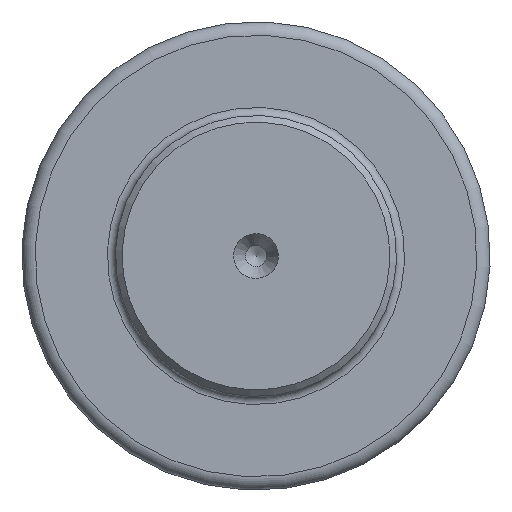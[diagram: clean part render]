
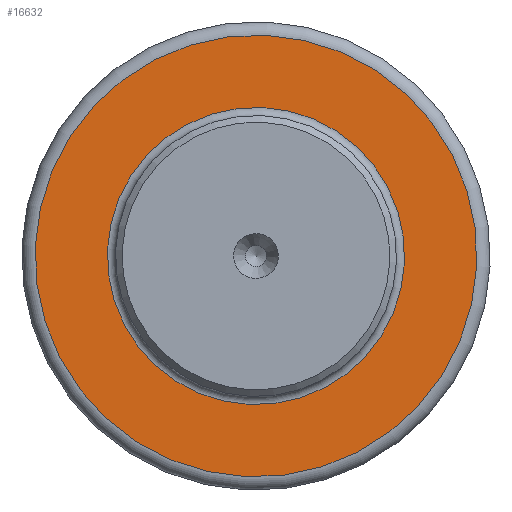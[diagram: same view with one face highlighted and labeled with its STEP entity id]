
A CAD part, left-side view. The second image highlights one B-rep face of the part: STEP entity #16632.
In plain terms, the highlighted planar face has unit normal (-1, 0, 0).
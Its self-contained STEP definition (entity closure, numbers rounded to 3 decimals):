
#16598=CARTESIAN_POINT('',(64.01,-9.574,0.0));
#16599=VERTEX_POINT('',#16598);
#16600=CARTESIAN_POINT('',(64.01,23.426,0.0));
#16601=DIRECTION('',(-1.0,0.0,0.0));
#16602=DIRECTION('',(0.0,-1.0,0.0));
#16603=AXIS2_PLACEMENT_3D('',#16600,#16601,#16602);
#16604=CIRCLE('',#16603,33.0);
#16605=EDGE_CURVE('',#16599,#16599,#16604,.T.);
#16613=CARTESIAN_POINT('',(64.01,-4.174,0.0));
#16614=DIRECTION('',(-1.0,0.0,0.0));
#16615=DIRECTION('',(0.0,0.0,1.0));
#16616=AXIS2_PLACEMENT_3D('',#16613,#16614,#16615);
#16617=PLANE('',#16616);
#16618=ORIENTED_EDGE('',*,*,#16605,.T.);
#16619=EDGE_LOOP('',(#16618));
#16620=FACE_OUTER_BOUND('',#16619,.T.);
#16621=CARTESIAN_POINT('',(64.01,1.226,0.0));
#16622=VERTEX_POINT('',#16621);
#16623=CARTESIAN_POINT('',(64.01,23.426,0.0));
#16624=DIRECTION('',(-1.0,0.0,0.0));
#16625=DIRECTION('',(0.0,-1.0,0.0));
#16626=AXIS2_PLACEMENT_3D('',#16623,#16624,#16625);
#16627=CIRCLE('',#16626,22.2);
#16628=EDGE_CURVE('',#16622,#16622,#16627,.T.);
#16629=ORIENTED_EDGE('',*,*,#16628,.F.);
#16630=EDGE_LOOP('',(#16629));
#16631=FACE_BOUND('',#16630,.T.);
#16632=ADVANCED_FACE('',(#16620,#16631),#16617,.T.);
